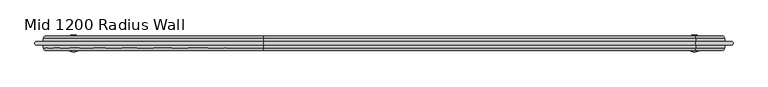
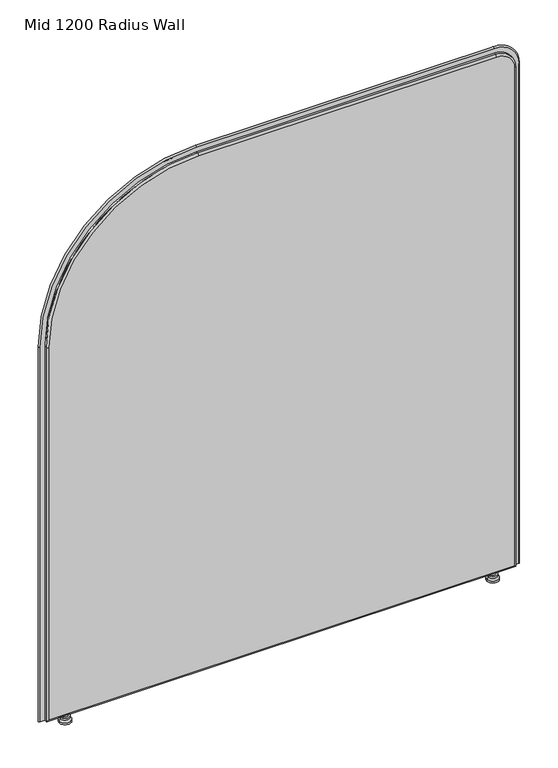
"""IFC4 building model written with IfcOpenShell, lengths in millimetres: furniture geometry, DBLTD_Sixteen3_PrivacyScreens_Artus_ArchRadius : Mid 1200 Radius Wall."""

from ifc_helpers import new_model, si_unit, point, frame, origin, place, context, project, spatial, polyline, circle_curve, ellipse_curve, trimmed, source, transform, mapped, element, save
from ifc_brep_helpers import plane_surface, cylinder_surface, revolved_surface, advanced_brep


def mid_1200_radius_wall_593a21f5(model_context):
    return source(origin(), model_context, "Body", "AdvancedBrep", [
        advanced_brep(
        [(542.2938623, 820.0, 22.0), (549.2938623, 820.0, 22.0), (535.2938623, 820.0, 22.0), (549.2938623, 820.0, 15.0), (535.2938623, 820.0, 15.0), (553.744562, 820.0, 15.0), (530.8431626, 820.0, 15.0), (553.744562, 820.0, 10.0), (530.8431626, 820.0, 10.0), (557.2938623, 820.0, 5.0), (527.2938623, 820.0, 5.0), (557.2938623, 820.0, 0.0), (527.2938623, 820.0, 0.0), (542.2938623, 820.0, 0.0)],
        [
            (0, 1),
            (1, 2, circle_curve(frame((542.2938623, 820.0, 22.0), z_axis=(0.0, 0.0, 1.0), x_axis=(1.0, 0.0, 0.0)), 7.0)),
            (2, 0),
            (2, 1, circle_curve(frame((542.2938623, 820.0, 22.0), z_axis=(0.0, 0.0, 1.0), x_axis=(1.0, 0.0, 0.0)), 7.0)),
            (1, 3),
            (3, 4, circle_curve(frame((542.2938623, 820.0, 15.0), z_axis=(0.0, 0.0, 1.0), x_axis=(1.0, 0.0, 0.0)), 7.0)),
            (4, 2),
            (4, 3, circle_curve(frame((542.2938623, 820.0, 15.0), z_axis=(0.0, 0.0, 1.0), x_axis=(1.0, 0.0, 0.0)), 7.0)),
            (3, 5),
            (5, 6, circle_curve(frame((542.2938623, 820.0, 15.0), z_axis=(0.0, 0.0, 1.0), x_axis=(1.0, 0.0, 0.0)), 11.4506997)),
            (6, 4),
            (6, 5, circle_curve(frame((542.2938623, 820.0, 15.0), z_axis=(0.0, 0.0, 1.0), x_axis=(1.0, 0.0, 0.0)), 11.4506997)),
            (5, 7),
            (7, 8, circle_curve(frame((542.2938623, 820.0, 10.0), z_axis=(0.0, 0.0, 1.0), x_axis=(1.0, 0.0, 0.0)), 11.4506997)),
            (8, 6),
            (8, 7, circle_curve(frame((542.2938623, 820.0, 10.0), z_axis=(0.0, 0.0, 1.0), x_axis=(1.0, 0.0, 0.0)), 11.4506997)),
            (7, 9),
            (9, 10, circle_curve(frame((542.2938623, 820.0, 5.0), z_axis=(0.0, 0.0, 1.0), x_axis=(1.0, 0.0, 0.0)), 15.0)),
            (10, 8),
            (10, 9, circle_curve(frame((542.2938623, 820.0, 5.0), z_axis=(0.0, 0.0, 1.0), x_axis=(1.0, 0.0, 0.0)), 15.0)),
            (9, 11),
            (11, 12, circle_curve(frame((542.2938623, 820.0, 0.0), z_axis=(0.0, 0.0, 1.0), x_axis=(1.0, 0.0, 0.0)), 15.0)),
            (12, 10),
            (12, 11, circle_curve(frame((542.2938623, 820.0, 0.0), z_axis=(0.0, 0.0, 1.0), x_axis=(1.0, 0.0, 0.0)), 15.0)),
            (11, 13),
            (13, 12),
        ],
        [
            plane_surface(frame((542.2938623, 820.0, 22.0), z_axis=(0.0, 0.0, 1.0), x_axis=(1.0, 0.0, 0.0))),
            cylinder_surface(frame((542.2938623, 820.0, 5.0), z_axis=(0.0, 0.0, 1.0), x_axis=(1.0, 0.0, 0.0)), 7.0),
            plane_surface(frame((542.2938623, 820.0, 15.0), z_axis=(0.0, 0.0, 1.0), x_axis=(1.0, 0.0, 0.0))),
            cylinder_surface(frame((542.2938623, 820.0, 5.0), z_axis=(0.0, 0.0, 1.0), x_axis=(1.0, 0.0, 0.0)), 11.4506997),
            revolved_surface(polyline([(557.2938623, 820.0, 5.0), (553.744562, 820.0, 10.0)]), (542.2938623, 820.0, 5.0), (0.0, 0.0, 1.0)),
            cylinder_surface(frame((542.2938623, 820.0, 5.0), z_axis=(0.0, 0.0, 1.0), x_axis=(1.0, 0.0, 0.0)), 15.0),
            plane_surface(frame((542.2938623, 820.0, 0.0), z_axis=(0.0, 0.0, -1.0), x_axis=(1.0, 0.0, 0.0))),
        ],
        [
            (0, [[1, 2, 3]]),
            (0, [[-3, 4, -1]]),
            (1, [[-2, 5, 6, 7]]),
            (1, [[-4, -7, 8, -5]]),
            (2, [[-6, 9, 10, 11]]),
            (2, [[-8, -11, 12, -9]]),
            (3, [[-10, 13, 14, 15]]),
            (3, [[-12, -15, 16, -13]]),
            (4, [[-14, 17, 18, 19]]),
            (4, [[-16, -19, 20, -17]]),
            (5, [[-18, 21, 22, 23]]),
            (5, [[-20, -23, 24, -21]]),
            (6, [[-22, 25, 26]]),
            (6, [[-24, -26, -25]]),
        ],
    ),
        advanced_brep(
        [(-535.2938623, 820.0, 22.0), (-549.2938623, 820.0, 22.0), (-542.2938623, 820.0, 22.0), (-535.2938623, 820.0, 15.0), (-549.2938623, 820.0, 15.0), (-530.8431626, 820.0, 15.0), (-553.744562, 820.0, 15.0), (-530.8431626, 820.0, 10.0), (-553.744562, 820.0, 10.0), (-527.2938623, 820.0, 5.0), (-557.2938623, 820.0, 5.0), (-527.2938623, 820.0, 0.0), (-557.2938623, 820.0, 0.0), (-542.2938623, 820.0, 0.0)],
        [
            (0, 1, circle_curve(frame((-542.2938623, 820.0, 22.0), z_axis=(0.0, 0.0, 1.0), x_axis=(-1.0, 0.0, 0.0)), 7.0)),
            (1, 2),
            (2, 0),
            (1, 0, circle_curve(frame((-542.2938623, 820.0, 22.0), z_axis=(0.0, 0.0, 1.0), x_axis=(-1.0, 0.0, 0.0)), 7.0)),
            (3, 4, circle_curve(frame((-542.2938623, 820.0, 15.0), z_axis=(0.0, 0.0, 1.0), x_axis=(-1.0, 0.0, 0.0)), 7.0)),
            (4, 1),
            (0, 3),
            (4, 3, circle_curve(frame((-542.2938623, 820.0, 15.0), z_axis=(0.0, 0.0, 1.0), x_axis=(-1.0, 0.0, 0.0)), 7.0)),
            (5, 6, circle_curve(frame((-542.2938623, 820.0, 15.0), z_axis=(0.0, 0.0, 1.0), x_axis=(-1.0, 0.0, 0.0)), 11.4506997)),
            (6, 4),
            (3, 5),
            (6, 5, circle_curve(frame((-542.2938623, 820.0, 15.0), z_axis=(0.0, 0.0, 1.0), x_axis=(-1.0, 0.0, 0.0)), 11.4506997)),
            (7, 8, circle_curve(frame((-542.2938623, 820.0, 10.0), z_axis=(0.0, 0.0, 1.0), x_axis=(-1.0, 0.0, 0.0)), 11.4506997)),
            (8, 6),
            (5, 7),
            (8, 7, circle_curve(frame((-542.2938623, 820.0, 10.0), z_axis=(0.0, 0.0, 1.0), x_axis=(-1.0, 0.0, 0.0)), 11.4506997)),
            (9, 10, circle_curve(frame((-542.2938623, 820.0, 5.0), z_axis=(0.0, 0.0, 1.0), x_axis=(-1.0, 0.0, 0.0)), 15.0)),
            (10, 8),
            (7, 9),
            (10, 9, circle_curve(frame((-542.2938623, 820.0, 5.0), z_axis=(0.0, 0.0, 1.0), x_axis=(-1.0, 0.0, 0.0)), 15.0)),
            (11, 12, circle_curve(frame((-542.2938623, 820.0, 0.0), z_axis=(0.0, 0.0, 1.0), x_axis=(-1.0, 0.0, 0.0)), 15.0)),
            (12, 10),
            (9, 11),
            (12, 11, circle_curve(frame((-542.2938623, 820.0, 0.0), z_axis=(0.0, 0.0, 1.0), x_axis=(-1.0, 0.0, 0.0)), 15.0)),
            (13, 12),
            (11, 13),
        ],
        [
            plane_surface(frame((-542.2938623, 820.0, 22.0), z_axis=(0.0, 0.0, 1.0), x_axis=(-1.0, 0.0, 0.0))),
            cylinder_surface(frame((-542.2938623, 820.0, 5.0), z_axis=(0.0, 0.0, -1.0), x_axis=(-1.0, 0.0, 0.0)), 7.0),
            plane_surface(frame((-542.2938623, 820.0, 15.0), z_axis=(0.0, 0.0, 1.0), x_axis=(-1.0, 0.0, 0.0))),
            cylinder_surface(frame((-542.2938623, 820.0, 5.0), z_axis=(0.0, 0.0, -1.0), x_axis=(-1.0, 0.0, 0.0)), 11.4506997),
            revolved_surface(polyline([(-553.744562, 820.0, 10.0), (-557.2938623, 820.0, 5.0)]), (-542.2938623, 820.0, 5.0), (0.0, 0.0, -1.0)),
            cylinder_surface(frame((-542.2938623, 820.0, 5.0), z_axis=(0.0, 0.0, -1.0), x_axis=(-1.0, 0.0, 0.0)), 15.0),
            plane_surface(frame((-542.2938623, 820.0, 0.0), z_axis=(0.0, 0.0, -1.0), x_axis=(-1.0, 0.0, 0.0))),
        ],
        [
            (0, [[1, 2, 3]]),
            (0, [[4, -3, -2]]),
            (1, [[5, 6, -1, 7]]),
            (1, [[8, -7, -4, -6]]),
            (2, [[9, 10, -5, 11]]),
            (2, [[12, -11, -8, -10]]),
            (3, [[13, 14, -9, 15]]),
            (3, [[16, -15, -12, -14]]),
            (4, [[17, 18, -13, 19]]),
            (4, [[20, -19, -16, -18]]),
            (5, [[21, 22, -17, 23]]),
            (5, [[24, -23, -20, -22]]),
            (6, [[25, -21, 26]]),
            (6, [[-26, -24, -25]]),
        ],
    ),
        advanced_brep(
        [(-590.0, 807.0, 27.0), (590.0, 807.0, 27.0), (590.0, 807.0, 1360.0), (545.0, 807.0, 1405.0), (-210.0, 807.0, 1405.0), (-590.0, 807.0, 1025.0), (590.0, 833.0, 27.0), (-590.0, 833.0, 27.0), (-590.0, 833.0, 1025.0), (-210.0, 833.0, 1405.0), (545.0, 833.0, 1405.0), (590.0, 833.0, 1360.0), (545.0, 811.9999957, 1410.0), (545.0, 828.0, 1410.0), (-210.0, 828.0, 1410.0), (-210.0, 812.0, 1410.0), (-595.0, 828.0, 1025.0), (-595.0, 811.9999957, 1025.0), (-595.0, 828.0, 22.0), (-595.0, 812.0, 22.0), (595.0, 828.0, 22.0), (595.0, 812.0, 22.0), (595.0, 828.0, 1360.0), (595.0, 812.0, 1360.0)],
        [
            (0, 1),
            (1, 2),
            (2, 3, circle_curve(frame((545.0, 807.0, 1360.0), z_axis=(0.0, -1.0, 0.0), x_axis=(1.0, 0.0, 0.0)), 45.0)),
            (3, 4),
            (4, 5, circle_curve(frame((-210.0, 807.0, 1025.0), z_axis=(0.0, -1.0, 0.0), x_axis=(0.0, 0.0, 1.0)), 380.0)),
            (5, 0),
            (6, 7),
            (7, 8),
            (8, 9, circle_curve(frame((-210.0, 833.0, 1025.0), z_axis=(0.0, 1.0, 0.0), x_axis=(0.0, 0.0, 1.0)), 380.0)),
            (9, 10),
            (10, 11, circle_curve(frame((545.0, 833.0, 1360.0), z_axis=(0.0, 1.0, 0.0), x_axis=(1.0, 0.0, 0.0)), 45.0)),
            (11, 6),
            (12, 13),
            (13, 14),
            (14, 15),
            (15, 12),
            (14, 16, circle_curve(frame((-210.0, 828.0, 1025.0), z_axis=(0.0, -1.0, 0.0), x_axis=(1.0, 0.0, 0.0)), 385.0)),
            (16, 17),
            (17, 15, circle_curve(frame((-210.0, 812.0, 1025.0), z_axis=(0.0, 1.0, 0.0), x_axis=(1.0, 0.0, 0.0)), 385.0)),
            (16, 18),
            (18, 19),
            (19, 17),
            (18, 20),
            (20, 21),
            (21, 19),
            (20, 22),
            (22, 23),
            (23, 21),
            (12, 23, circle_curve(frame((545.0, 812.0, 1360.0), z_axis=(0.0, 1.0, 0.0), x_axis=(1.0, 0.0, 0.0)), 50.0)),
            (22, 13, circle_curve(frame((545.0, 828.0, 1360.0), z_axis=(0.0, -1.0, 0.0), x_axis=(1.0, 0.0, 0.0)), 50.0)),
            (21, 1, ellipse_curve(frame((590.0, 812.0, 27.0), z_axis=(-0.7071067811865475, 0.0, -0.7071067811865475), x_axis=(0.7071067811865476, 0.0, -0.7071067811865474)), 7.0710678, 5.0)),
            (0, 19, ellipse_curve(frame((-590.0, 812.0, 27.0), z_axis=(0.7071067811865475, 0.0, -0.7071067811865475), x_axis=(0.7071067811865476, 0.0, 0.7071067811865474)), 7.0710678, 5.0)),
            (6, 20, ellipse_curve(frame((590.0, 828.0, 27.0), z_axis=(-0.7071067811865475, 0.0, -0.7071067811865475), x_axis=(0.7071067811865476, 0.0, -0.7071067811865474)), 7.0710678, 5.0)),
            (18, 7, ellipse_curve(frame((-590.0, 828.0, 27.0), z_axis=(0.7071067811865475, 0.0, -0.7071067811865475), x_axis=(0.7071067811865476, 0.0, 0.7071067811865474)), 7.0710678, 5.0)),
            (23, 2, circle_curve(frame((590.0, 812.0, 1360.0), z_axis=(0.0, 0.0, -1.0), x_axis=(1.0, 0.0, 0.0)), 5.0)),
            (11, 22, circle_curve(frame((590.0, 828.0, 1360.0), z_axis=(0.0, 0.0, -1.0), x_axis=(1.0, 0.0, 0.0)), 5.0)),
            (12, 3, circle_curve(frame((545.0, 812.0, 1405.0), z_axis=(1.0, 0.0, 0.0), x_axis=(0.0, 0.0, 1.0)), 5.0)),
            (10, 13, circle_curve(frame((545.0, 828.0, 1405.0), z_axis=(1.0, 0.0, 0.0), x_axis=(0.0, 0.0, 1.0)), 5.0)),
            (15, 4, circle_curve(frame((-210.0, 812.0, 1405.0), z_axis=(1.0, 0.0, 0.0), x_axis=(0.0, 0.0, 1.0)), 5.0)),
            (9, 14, circle_curve(frame((-210.0, 828.0, 1405.0), z_axis=(1.0, 0.0, 0.0), x_axis=(0.0, 0.0, 1.0)), 5.0)),
            (17, 5, circle_curve(frame((-590.0, 812.0, 1025.0), z_axis=(0.0, 0.0, 1.0), x_axis=(-1.0, 0.0, 0.0)), 5.0)),
            (8, 16, circle_curve(frame((-590.0, 828.0, 1025.0), z_axis=(0.0, 0.0, 1.0), x_axis=(-1.0, 0.0, 0.0)), 5.0)),
        ],
        [
            plane_surface(frame((-210.0, 807.0, 1410.0), z_axis=(0.0, -1.0, 0.0), x_axis=(-1.0, 0.0, 0.0))),
            plane_surface(frame((-210.0, 833.0, 1410.0), z_axis=(0.0, 1.0, 0.0), x_axis=(1.0, 0.0, 0.0))),
            plane_surface(frame((545.0, 807.0, 1410.0), z_axis=(0.0, 0.0, 1.0), x_axis=(0.0, 1.0, 0.0))),
            cylinder_surface(frame((-210.0, 833.0, 1025.0), z_axis=(0.0, -1.0, 0.0), x_axis=(1.0, 0.0, 0.0)), 385.0),
            plane_surface(frame((-595.0, 807.0, 1025.0), z_axis=(-1.0, 0.0, 0.0), x_axis=(0.0, 1.0, 0.0))),
            plane_surface(frame((-595.0, 807.0, 22.0), z_axis=(0.0, 0.0, -1.0), x_axis=(0.0, 1.0, 0.0))),
            plane_surface(frame((595.0, 807.0, 22.0), z_axis=(1.0, 0.0, 0.0), x_axis=(0.0, 1.0, 0.0))),
            cylinder_surface(frame((545.0, 833.0, 1360.0), z_axis=(0.0, -1.0, 0.0), x_axis=(1.0, 0.0, 0.0)), 50.0),
            cylinder_surface(frame((-595.0, 812.0, 27.0), z_axis=(1.0, 0.0, 0.0), x_axis=(0.0, 0.0, -1.0)), 5.0),
            cylinder_surface(frame((-595.0, 828.0, 27.0), z_axis=(1.0, 0.0, 0.0), x_axis=(0.0, 0.0, -1.0)), 5.0),
            cylinder_surface(frame((590.0, 812.0, 22.0), z_axis=(0.0, 0.0, 1.0), x_axis=(1.0, 0.0, 0.0)), 5.0),
            cylinder_surface(frame((590.0, 828.0, 22.0), z_axis=(0.0, 0.0, 1.0), x_axis=(1.0, 0.0, 0.0)), 5.0),
            revolved_surface(trimmed(ellipse_curve(frame((590.0, 812.0, 1360.0), z_axis=(0.0, 0.0, -1.0), x_axis=(1.0, 0.0, 0.0)), 5.0, 5.0), [point((595.0, 812.0, 1360.0))], [point((590.0, 807.0, 1360.0))], True, "CARTESIAN"), (545.0, 807.0, 1360.0), (0.0, -1.0, 0.0)),
            revolved_surface(trimmed(ellipse_curve(frame((590.0, 828.0, 1360.0), z_axis=(0.0, 0.0, -1.0), x_axis=(1.0, 0.0, 0.0)), 5.0, 5.0), [point((590.0, 833.0, 1360.0))], [point((595.0, 828.0, 1360.0))], True, "CARTESIAN"), (545.0, 807.0, 1360.0), (0.0, -1.0, 0.0)),
            cylinder_surface(frame((545.0, 812.0, 1405.0), z_axis=(-1.0, 0.0, 0.0), x_axis=(0.0, 0.0, 1.0)), 5.0),
            cylinder_surface(frame((545.0, 828.0, 1405.0), z_axis=(-1.0, 0.0, 0.0), x_axis=(0.0, 0.0, 1.0)), 5.0),
            revolved_surface(trimmed(ellipse_curve(frame((-210.0, 812.0, 1405.0), z_axis=(1.0, 0.0, 0.0), x_axis=(0.0, 0.0, 1.0)), 5.0, 5.0), [point((-210.0, 812.0, 1410.0))], [point((-210.0, 807.0, 1405.0))], True, "CARTESIAN"), (-210.0, 807.0, 1025.0), (0.0, -1.0, 0.0)),
            revolved_surface(trimmed(ellipse_curve(frame((-210.0, 828.0, 1405.0), z_axis=(1.0, 0.0, 0.0), x_axis=(0.0, 0.0, 1.0)), 5.0, 5.0), [point((-210.0, 833.0, 1405.0))], [point((-210.0, 828.0, 1410.0))], True, "CARTESIAN"), (-210.0, 807.0, 1025.0), (0.0, -1.0, 0.0)),
            cylinder_surface(frame((-590.0, 812.0, 1025.0), z_axis=(0.0, 0.0, -1.0), x_axis=(-1.0, 0.0, 0.0)), 5.0),
            cylinder_surface(frame((-590.0, 828.0, 1025.0), z_axis=(0.0, 0.0, -1.0), x_axis=(-1.0, 0.0, 0.0)), 5.0),
        ],
        [
            (0, [[1, 2, 3, 4, 5, 6]]),
            (1, [[7, 8, 9, 10, 11, 12]]),
            (2, [[13, 14, 15, 16]]),
            (3, [[-15, 17, 18, 19]]),
            (4, [[-18, 20, 21, 22]]),
            (5, [[-21, 23, 24, 25]]),
            (6, [[-24, 26, 27, 28]]),
            (7, [[-13, 29, -27, 30]]),
            (8, [[31, -1, 32, -25]]),
            (9, [[33, -23, 34, -7]]),
            (10, [[-31, -28, 35, -2]]),
            (11, [[-33, -12, 36, -26]]),
            (12, [[-35, -29, 37, -3]]),
            (13, [[-36, -11, 38, -30]]),
            (14, [[-37, -16, 39, -4]]),
            (15, [[-38, -10, 40, -14]]),
            (16, [[-39, -19, 41, -5]]),
            (17, [[-40, -9, 42, -17]]),
            (18, [[-32, -6, -41, -22]]),
            (19, [[-34, -20, -42, -8]]),
        ],
    ),
        advanced_brep(
        [(606.9577057, 823.0, 22.0), (606.9577057, 817.0, 22.0), (595.0, 817.0, 22.0), (595.0, 823.0, 22.0), (606.9577057, 823.0, 1360.0), (606.9577057, 817.0, 1360.0), (545.0, 817.0, 1421.9577057), (-210.0, 817.0, 1421.9577057), (-606.9577057, 817.0, 1025.0), (-606.9577057, 817.0, 22.0), (-595.0, 817.0, 22.0), (-595.0, 817.0, 1025.0), (-210.0, 817.0, 1410.0), (545.0, 817.0, 1410.0), (595.0, 817.0, 1360.0), (595.0, 823.0, 1360.0), (545.0, 823.0, 1410.0), (-210.0, 823.0, 1410.0), (-595.0, 823.0, 1025.0), (-595.0, 823.0, 22.0), (-606.9577057, 823.0, 22.0), (-606.9577057, 823.0, 1025.0), (-210.0, 823.0, 1421.9577057), (545.0, 823.0, 1421.9577057)],
        [
            (0, 1, circle_curve(frame((606.9577057, 820.0, 22.0), z_axis=(0.0, 0.0, -1.0), x_axis=(1.0, 0.0, 0.0)), 3.0)),
            (1, 2),
            (2, 3),
            (3, 0),
            (0, 4),
            (4, 5, circle_curve(frame((606.9577057, 820.0, 1360.0), z_axis=(0.0, 0.0, -1.0), x_axis=(1.0, 0.0, 0.0)), 3.0)),
            (5, 1),
            (5, 6, circle_curve(frame((545.0, 817.0, 1360.0), z_axis=(0.0, -1.0, 0.0), x_axis=(1.0, 0.0, 0.0)), 61.9577057)),
            (6, 7),
            (7, 8, circle_curve(frame((-210.0, 817.0, 1025.0), z_axis=(0.0, -1.0, 0.0), x_axis=(0.0, 0.0, 1.0)), 396.9577057)),
            (8, 9),
            (9, 10),
            (10, 11),
            (11, 12, circle_curve(frame((-210.0, 817.0, 1025.0), z_axis=(0.0, 1.0, 0.0), x_axis=(0.0, 0.0, 1.0)), 385.0)),
            (12, 13),
            (13, 14, circle_curve(frame((545.0, 817.0, 1360.0), z_axis=(0.0, 1.0, 0.0), x_axis=(1.0, 0.0, 0.0)), 50.0)),
            (14, 2),
            (14, 15),
            (15, 3),
            (15, 16, circle_curve(frame((545.0, 823.0, 1360.0), z_axis=(0.0, -1.0, 0.0), x_axis=(1.0, 0.0, 0.0)), 50.0)),
            (16, 17),
            (17, 18, circle_curve(frame((-210.0, 823.0, 1025.0), z_axis=(0.0, -1.0, 0.0), x_axis=(0.0, 0.0, 1.0)), 385.0)),
            (18, 19),
            (19, 20),
            (20, 21),
            (21, 22, circle_curve(frame((-210.0, 823.0, 1025.0), z_axis=(0.0, 1.0, 0.0), x_axis=(0.0, 0.0, 1.0)), 396.9577057)),
            (22, 23),
            (23, 4, circle_curve(frame((545.0, 823.0, 1360.0), z_axis=(0.0, 1.0, 0.0), x_axis=(1.0, 0.0, 0.0)), 61.9577057)),
            (23, 6, circle_curve(frame((545.0, 820.0, 1421.9577057), z_axis=(1.0, 0.0, 0.0), x_axis=(0.0, 0.0, 1.0)), 3.0)),
            (13, 16),
            (22, 7, circle_curve(frame((-210.0, 820.0, 1421.9577057), z_axis=(1.0, 0.0, 0.0), x_axis=(0.0, 0.0, 1.0)), 3.0)),
            (12, 17),
            (21, 8, circle_curve(frame((-606.9577057, 820.0, 1025.0), z_axis=(0.0, 0.0, 1.0), x_axis=(-1.0, 0.0, 0.0)), 3.0)),
            (11, 18),
            (19, 10),
            (9, 20, circle_curve(frame((-606.9577057, 820.0, 22.0), z_axis=(0.0, 0.0, -1.0), x_axis=(-1.0, 0.0, 0.0)), 3.0)),
        ],
        [
            plane_surface(frame((595.0, 807.0, 22.0), z_axis=(0.0, 0.0, -1.0), x_axis=(1.0, 0.0, 0.0))),
            cylinder_surface(frame((606.9577057, 820.0, 22.0), z_axis=(0.0, 0.0, -1.0), x_axis=(1.0, 0.0, 0.0)), 3.0),
            plane_surface(frame((606.9577057, 817.0, 22.0), z_axis=(0.0, -1.0, 0.0), x_axis=(0.0, 0.0, 1.0))),
            plane_surface(frame((595.0, 817.0, 22.0), z_axis=(-1.0, 0.0, 0.0), x_axis=(0.0, 0.0, 1.0))),
            plane_surface(frame((595.0, 823.0, 22.0), z_axis=(0.0, 1.0, 0.0), x_axis=(0.0, 0.0, 1.0))),
            revolved_surface(trimmed(ellipse_curve(frame((606.9577057, 820.0, 1360.0), z_axis=(0.0, 0.0, -1.0), x_axis=(1.0, 0.0, 0.0)), 3.0, 3.0), [point((606.9577057, 823.0, 1360.0))], [point((606.9577057, 817.0, 1360.0))], True, "CARTESIAN"), (545.0, 807.0, 1360.0), (0.0, -1.0, 0.0)),
            revolved_surface(polyline([(595.0, 817.0, 1360.0), (595.0, 823.0, 1360.0)]), (545.0, 807.0, 1360.0), (0.0, -1.0, 0.0)),
            cylinder_surface(frame((545.0, 820.0, 1421.9577057), z_axis=(1.0, 0.0, 0.0), x_axis=(0.0, 0.0, 1.0)), 3.0),
            plane_surface(frame((545.0, 817.0, 1410.0), z_axis=(0.0, 0.0, -1.0), x_axis=(-1.0, 0.0, 0.0))),
            revolved_surface(trimmed(ellipse_curve(frame((-210.0, 820.0, 1421.9577057), z_axis=(1.0, 0.0, 0.0), x_axis=(0.0, 0.0, 1.0)), 3.0, 3.0), [point((-210.0, 823.0, 1421.9577057))], [point((-210.0, 817.0, 1421.9577057))], True, "CARTESIAN"), (-210.0, 807.0, 1025.0), (0.0, -1.0, 0.0)),
            revolved_surface(polyline([(-210.0, 817.0, 1410.0), (-210.0, 823.0, 1410.0)]), (-210.0, 807.0, 1025.0), (0.0, -1.0, 0.0)),
            plane_surface(frame((-595.0, 807.0, 22.0), z_axis=(0.0, 0.0, -1.0), x_axis=(-1.0, 0.0, 0.0))),
            cylinder_surface(frame((-606.9577057, 820.0, 1025.0), z_axis=(0.0, 0.0, 1.0), x_axis=(-1.0, 0.0, 0.0)), 3.0),
            plane_surface(frame((-595.0, 817.0, 1025.0), z_axis=(1.0, 0.0, 0.0), x_axis=(0.0, 0.0, -1.0))),
        ],
        [
            (0, [[1, 2, 3, 4]]),
            (1, [[-1, 5, 6, 7]]),
            (2, [[-2, -7, 8, 9, 10, 11, 12, 13, 14, 15, 16, 17]]),
            (3, [[-3, -17, 18, 19]]),
            (4, [[-4, -19, 20, 21, 22, 23, 24, 25, 26, 27, 28, -5]]),
            (5, [[-8, -6, -28, 29]]),
            (6, [[-20, -18, -16, 30]]),
            (7, [[-29, -27, 31, -9]]),
            (8, [[-30, -15, 32, -21]]),
            (9, [[-10, -31, -26, 33]]),
            (10, [[-22, -32, -14, 34]]),
            (11, [[-24, 35, -12, 36]]),
            (12, [[-33, -25, -36, -11]]),
            (13, [[-34, -13, -35, -23]]),
        ],
    ),
    ])


if __name__ == "__main__":
    model = new_model("IFC4")
    model_context = context("Model", 3, world=origin())
    ifc_project = project(units=[si_unit("LENGTHUNIT", "METRE", prefix="MILLI")], contexts=[model_context])
    site = spatial("IfcSite", under=ifc_project)
    building = spatial("IfcBuilding", under=site)
    placement = place(None, origin())
    mid_1200_radius_wall_shape = mid_1200_radius_wall_593a21f5(model_context)
    element("IfcFurniture", 1, ObjectType="DBLTD_Sixteen3_PrivacyScreens_Artus_ArchRadius : Mid 1200 Radius Wall", at=placement, inside=building, context=model_context, shape_type="MappedRepresentation", body=[
        mapped(mid_1200_radius_wall_shape, transform((0.0, 0.0, 0.0), x_axis=(1.0, 0.0, 0.0), y_axis=(0.0, 1.0, 0.0), z_axis=(0.0, 0.0, 1.0))),
    ])
    save(model, "model.ifc")
